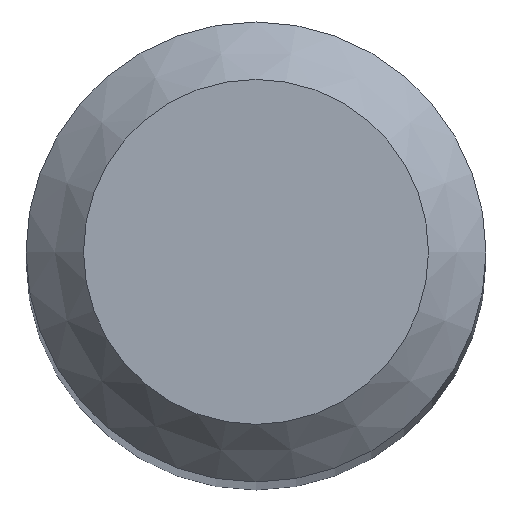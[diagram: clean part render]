
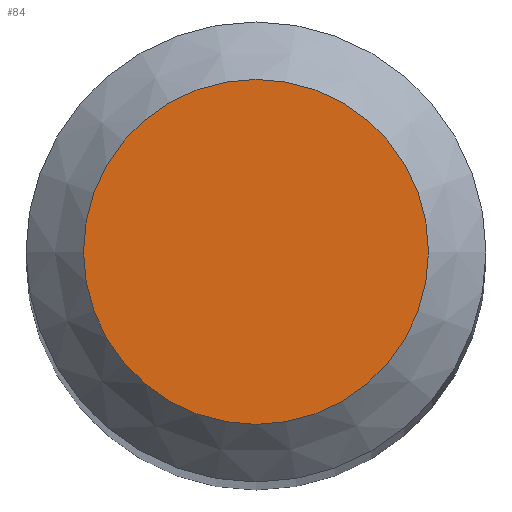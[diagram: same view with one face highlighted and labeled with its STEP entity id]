
A CAD part, top view. The second image highlights one B-rep face of the part: STEP entity #84.
In plain terms, the highlighted planar face has unit normal (0, 0, 1).
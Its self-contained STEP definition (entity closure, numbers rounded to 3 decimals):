
#68=CARTESIAN_POINT('',(1.5,0.0,48.0));
#69=DIRECTION('',(0.0,0.0,1.0));
#70=DIRECTION('',(1.0,0.0,0.0));
#71=AXIS2_PLACEMENT_3D('',#68,#69,#70);
#72=PLANE('',#71);
#73=CARTESIAN_POINT('',(-1.5,0.0,48.0));
#74=VERTEX_POINT('',#73);
#75=CARTESIAN_POINT('',(0.0,0.0,48.0));
#76=DIRECTION('',(0.0,0.0,-1.0));
#77=DIRECTION('',(-1.0,0.0,0.0));
#78=AXIS2_PLACEMENT_3D('',#75,#76,#77);
#79=CIRCLE('',#78,1.5);
#80=EDGE_CURVE('',#74,#74,#79,.T.);
#81=ORIENTED_EDGE('',*,*,#80,.F.);
#82=EDGE_LOOP('',(#81));
#83=FACE_OUTER_BOUND('',#82,.T.);
#84=ADVANCED_FACE('',(#83),#72,.T.);
